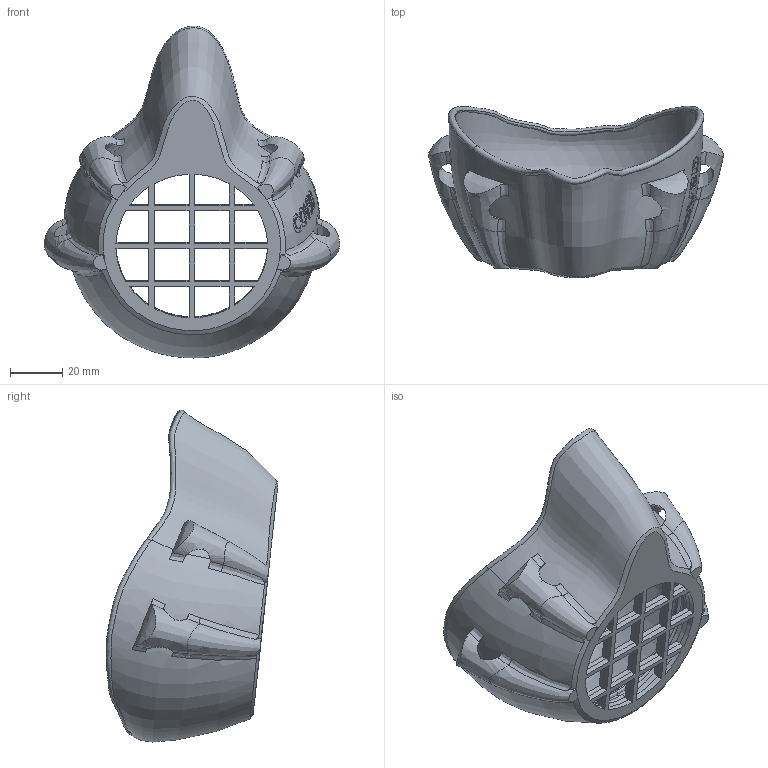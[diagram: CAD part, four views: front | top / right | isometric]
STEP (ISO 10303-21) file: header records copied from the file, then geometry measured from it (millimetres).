
FILE_DESCRIPTION(/* description */ (''),/* implementation_level */ '2;1');
FILE_NAME(/* name */ 'M-NARR~1',/* time_stamp */ '2020-04-10T21:33:03+03:00',/* author */ (''),/* organization */ (''),/* preprocessor_version */ 'ST-DEVELOPER v16.5',/* originating_system */ '',/* authorisation */ '');
FILE_SCHEMA (('AUTOMOTIVE_DESIGN'));
Length unit declared in the file: millimetre
Products named in the file (1): Document
Bounding box: 113.06 x 65.77 x 127.11 mm (x, y, z)
Volume: 50423.8 mm3; surface area: 45136.1 mm2
Topology: 1 solids, 1 shells, 312 faces, 797 edges, 489 vertices
Faces by surface type: bspline 209, plane 103
Entity records: 184217 total; most frequent: CARTESIAN_POINT 179229, ORIENTED_EDGE 1594, EDGE_CURVE 797, B_SPLINE_CURVE_WITH_KNOTS 625, VERTEX_POINT 489, EDGE_LOOP 354, ADVANCED_FACE 312, FACE_OUTER_BOUND 312
